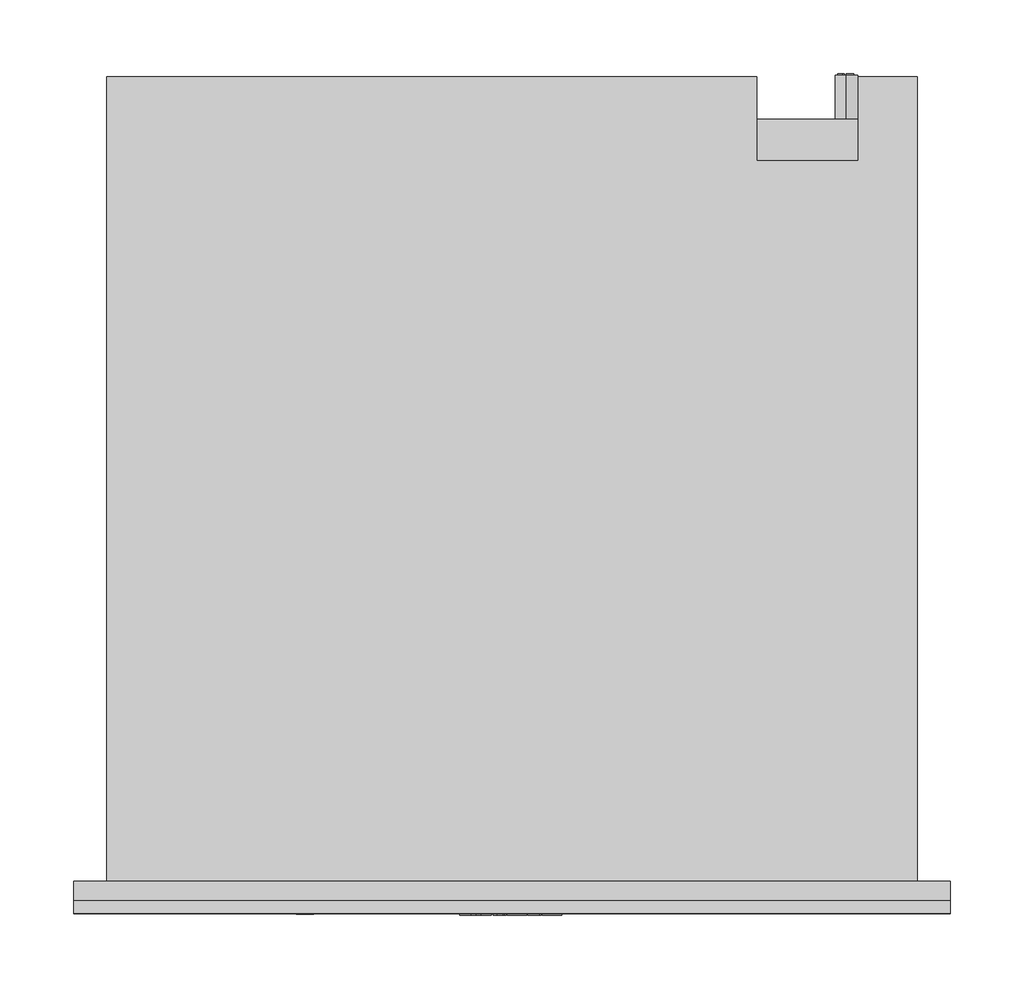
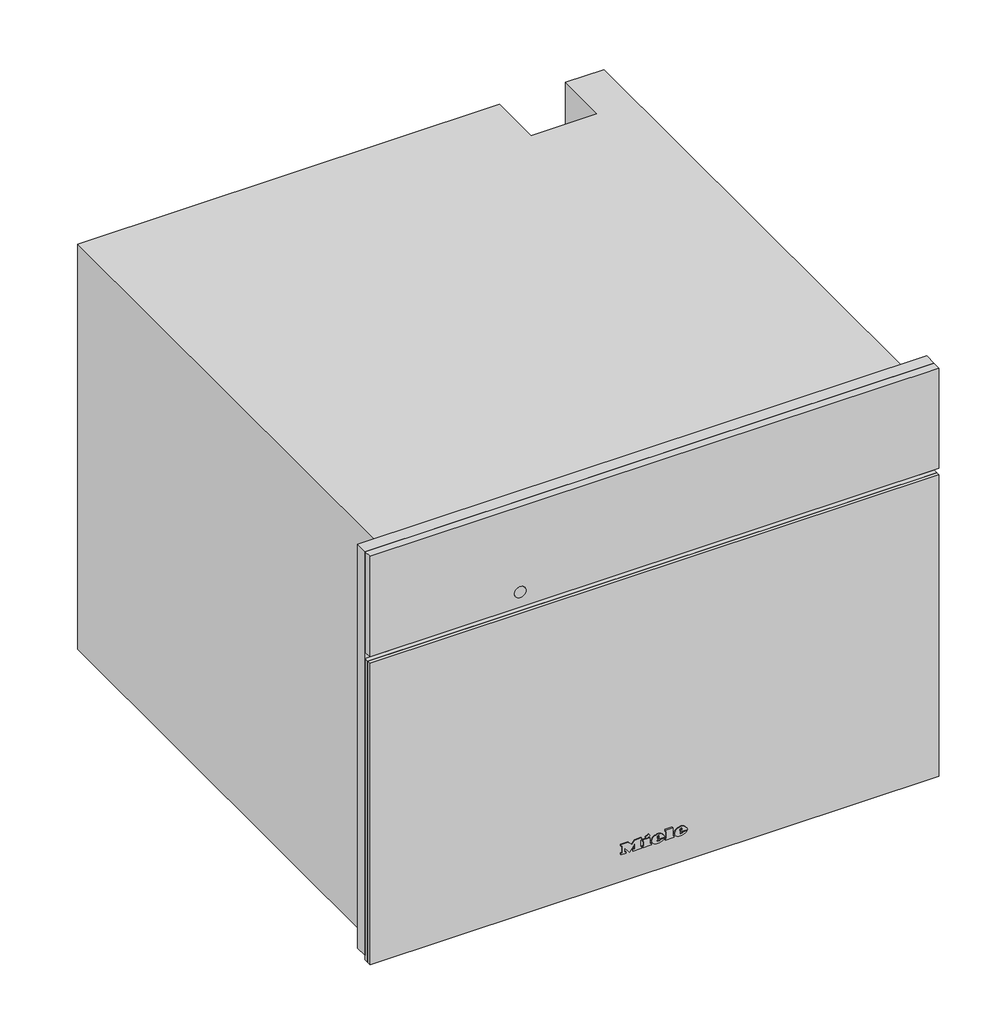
# Not in any storey: 1 proxy.
"""IFC4 building model written with IfcOpenShell, lengths in millimetres."""

from ifc_helpers import new_model, si_unit, origin, place, context, project, spatial, transform, mapped, element, save
from components import specialty_equipment_7f041e0e

model = new_model("IFC4")

# Units and contexts
model_context = context("Model", 3, world=origin())
ifc_project = project(units=[si_unit("LENGTHUNIT", "METRE", prefix="MILLI")], contexts=[model_context])

# Site, building
site = spatial("IfcSite", under=ifc_project)
building = spatial("IfcBuilding", under=site)

# Proxy
placement = place(None, origin())
specialty_equipment_shape = specialty_equipment_7f041e0e(model_context)
element("IfcBuildingElementProxy", 1, Name="12117190_I_DGC7840HCXPro_GRGR : 23784078_I_12117190_DGC7840HCXPro_GRGR", ObjectType="12117190_I_DGC7840HCXPro_GRGR : 23784078_I_12117190_DGC7840HCXPro_GRGR", at=placement, inside=building, context=model_context, shape_type="MappedRepresentation", body=[
    mapped(specialty_equipment_shape, transform((0.0, 0.0, 0.0), x_axis=(1.0, 0.0, 0.0), y_axis=(0.0, 1.0, 0.0), z_axis=(0.0, 0.0, 1.0))),
])

save(model, "model.ifc")
